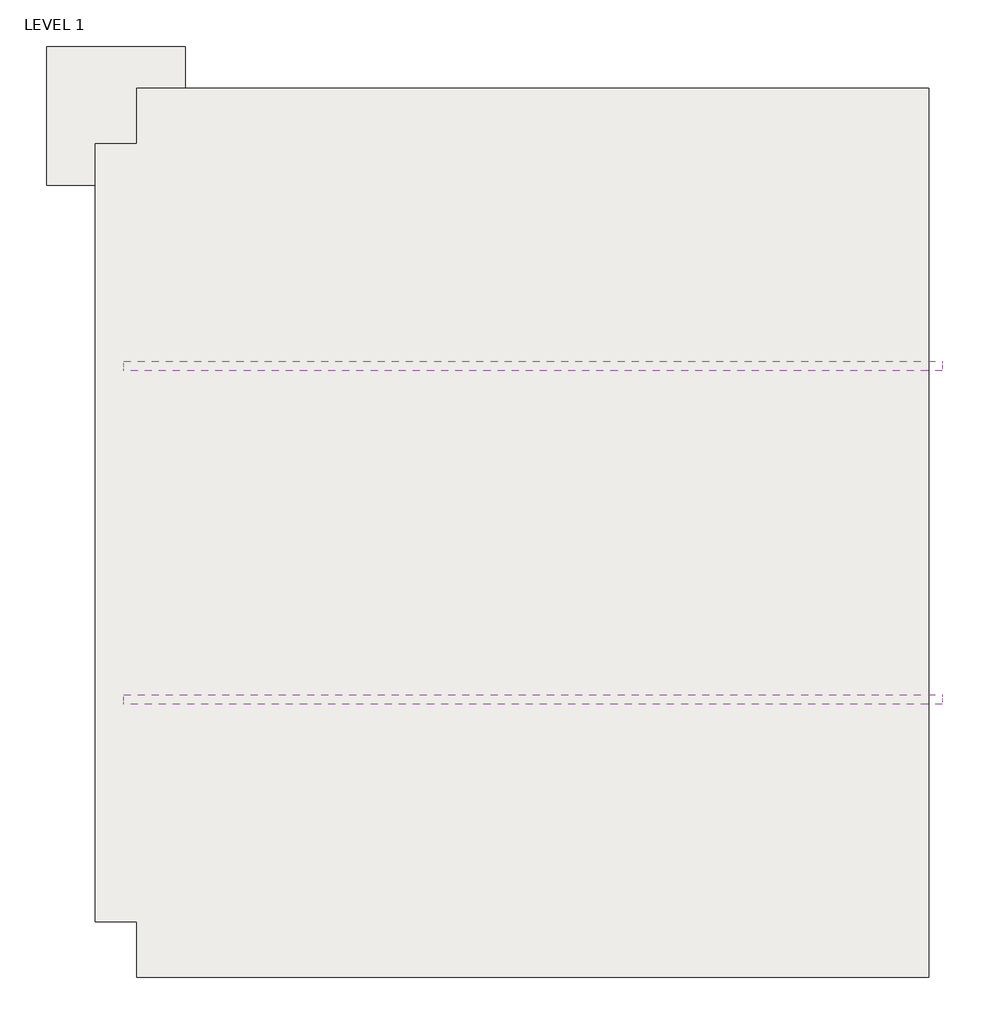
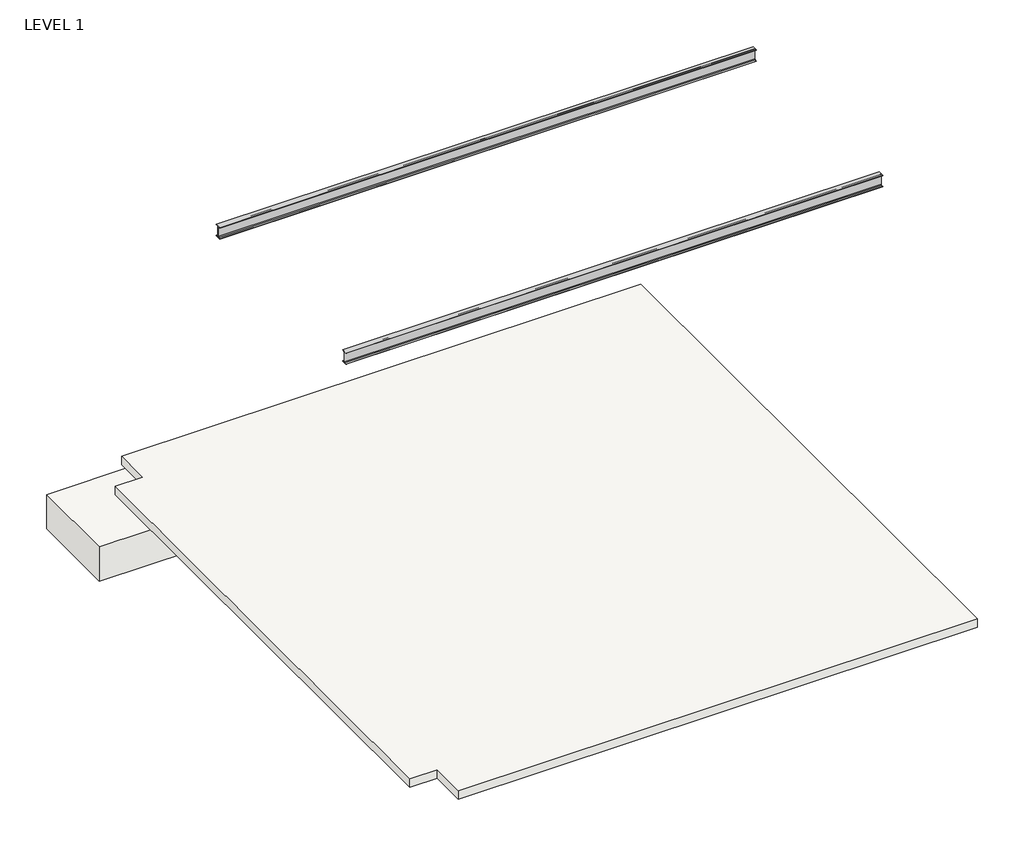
# One storey: 4 walls, 3 slabs, 2 beams.
"""IFC4 building model written with IfcOpenShell, lengths in millimetres."""

from ifc_helpers import new_model, si_unit, frame, origin, place, context, project, spatial, polyline, outline, extrude, faceted_brep, transform, mapped, element, save
from components import w_wide_flange_w8x10_78d70445, slab_c859e583

model = new_model("IFC4")

# Units and contexts
model_context = context("Model", 3, world=origin())
ifc_project = project(units=[si_unit("LENGTHUNIT", "METRE", prefix="MILLI")], contexts=[model_context])

# Site, building, storey
site = spatial("IfcSite", under=ifc_project)
building = spatial("IfcBuilding", under=site)
storey = spatial("IfcBuildingStorey", under=building, Name="LEVEL 1", Elevation=0.0)

# Beams
placement = place(None, origin())
w_wide_flange_w8x10_shape = w_wide_flange_w8x10_78d70445(model_context)
element("IfcBeam", 1, ObjectType="W-Wide Flange : W8X10", at=placement, inside=storey, context=model_context, shape_type="MappedRepresentation", body=[
    mapped(w_wide_flange_w8x10_shape, transform((0.0, 1828.8, 5868.7890625), x_axis=(1.0, 0.0, 0.0), y_axis=(0.0, 1.0, 0.0), z_axis=(0.0, 0.0, 1.0))),
])
element("IfcBeam", 2, ObjectType="W-Wide Flange : W8X10", at=placement, inside=storey, context=model_context, shape_type="MappedRepresentation", body=[
    mapped(w_wide_flange_w8x10_shape, transform((0.0, -1828.8, 5868.7890625), x_axis=(1.0, 0.0, 0.0), y_axis=(0.0, 1.0, 0.0), z_axis=(0.0, 0.0, 1.0))),
])

# Slabs
element("IfcSlab", 3, ObjectType="6\" Concrete", at=placement, inside=storey, context=model_context, shape_type="SweptSolid", body=[
    extrude(outline(polyline([(4343.4, 4876.8), (4343.4, -4876.8), (-4343.4, -4876.8), (-4343.4, -4267.2), (-4800.6, -4267.2), (-4800.6, 4267.2), (-4343.4, 4267.2), (-4343.4, 4876.8), (4343.4, 4876.8)])), frame((0.0, 0.0, -152.4), z_axis=(0.0, 0.0, 1.0), x_axis=(1.0, 0.0, 0.0)), (0.0, 0.0, 1.0), 152.4),
])
element("IfcSlab", 4, ObjectType="6\" Foundation Slab", at=placement, inside=storey, context=model_context, shape_type="SweptSolid", body=[
    extrude(outline(polyline([(2032.0, 2032.0), (2032.0, -2032.0), (-2032.0, -2032.0), (-2032.0, 2032.0), (2032.0, 2032.0)])), frame((0.0, 0.0, -1371.6), z_axis=(0.0, 0.0, 1.0), x_axis=(1.0, 0.0, 0.0)), (0.0, 0.0, 1.0), 152.4),
])
slab_shape = slab_c859e583(model_context)
element("IfcSlab", 5, ObjectType="Footing-Rectangular : 60\" x 60\" x 24\"", at=placement, inside=storey, context=model_context, shape_type="MappedRepresentation", body=[
    mapped(slab_shape, transform((-4572.0, 4572.0, -609.6), x_axis=(1.0, 0.0, 0.0), y_axis=(0.0, 1.0, 0.0), z_axis=(0.0, 0.0, 1.0))),
])

# Walls
element("IfcWall", 6, ObjectType="Foundation - 8\" Concrete", at=placement, inside=storey, context=model_context, shape_type="Brep", body=[
    faceted_brep([(-1727.2, 1524.0, -1219.2), (-1524.0, 1524.0, -1219.2), (1524.0, 1524.0, -1219.2), (1524.0, 1524.0, -152.4), (-1524.0, 1524.0, -152.4), (-1727.2, 1524.0, -152.4), (-1727.2, 1727.2, -1219.2), (-1727.2, 1727.2, -152.4), (1524.0, 1727.2, -152.4), (1524.0, 1727.2, -1219.2)], [[[0, 1, 2, 3, 4, 5]], [[6, 7, 8, 9]], [[2, 1, 0, 6, 9]], [[0, 5, 7, 6]], [[3, 2, 9, 8]], [[5, 4, 3, 8, 7]]]),
])
element("IfcWall", 7, ObjectType="Foundation - 8\" Concrete", at=placement, inside=storey, context=model_context, shape_type="Brep", body=[
    faceted_brep([(-1524.0, -1727.2, -1219.2), (-1524.0, -1524.0, -1219.2), (-1524.0, 1524.0, -1219.2), (-1524.0, 1524.0, -152.4), (-1524.0, -1524.0, -152.4), (-1524.0, -1727.2, -152.4), (-1727.2, -1727.2, -1219.2), (-1727.2, -1727.2, -152.4), (-1727.2, 1524.0, -152.4), (-1727.2, 1524.0, -1219.2)], [[[0, 1, 2, 3, 4, 5]], [[6, 7, 8, 9]], [[2, 1, 0, 6, 9]], [[0, 5, 7, 6]], [[3, 2, 9, 8]], [[5, 4, 3, 8, 7]]]),
])
element("IfcWall", 8, ObjectType="Foundation - 8\" Concrete", at=placement, inside=storey, context=model_context, shape_type="Brep", body=[
    faceted_brep([(1727.2, -1524.0, -1219.2), (1524.0, -1524.0, -1219.2), (-1524.0, -1524.0, -1219.2), (-1524.0, -1524.0, -152.4), (1524.0, -1524.0, -152.4), (1727.2, -1524.0, -152.4), (1727.2, -1727.2, -1219.2), (1727.2, -1727.2, -152.4), (-1524.0, -1727.2, -152.4), (-1524.0, -1727.2, -1219.2)], [[[0, 1, 2, 3, 4, 5]], [[6, 7, 8, 9]], [[2, 1, 0, 6, 9]], [[0, 5, 7, 6]], [[3, 2, 9, 8]], [[5, 4, 3, 8, 7]]]),
])
element("IfcWall", 9, ObjectType="Foundation - 8\" Concrete", at=placement, inside=storey, context=model_context, shape_type="Brep", body=[
    faceted_brep([(1524.0, 1727.2, -1219.2), (1524.0, 1524.0, -1219.2), (1524.0, -1524.0, -1219.2), (1524.0, -1524.0, -152.4), (1524.0, 1524.0, -152.4), (1524.0, 1727.2, -152.4), (1727.2, 1727.2, -1219.2), (1727.2, 1727.2, -152.4), (1727.2, -1524.0, -152.4), (1727.2, -1524.0, -1219.2)], [[[0, 1, 2, 3, 4, 5]], [[6, 7, 8, 9]], [[2, 1, 0, 6, 9]], [[0, 5, 7, 6]], [[3, 2, 9, 8]], [[5, 4, 3, 8, 7]]]),
])

save(model, "model.ifc")
